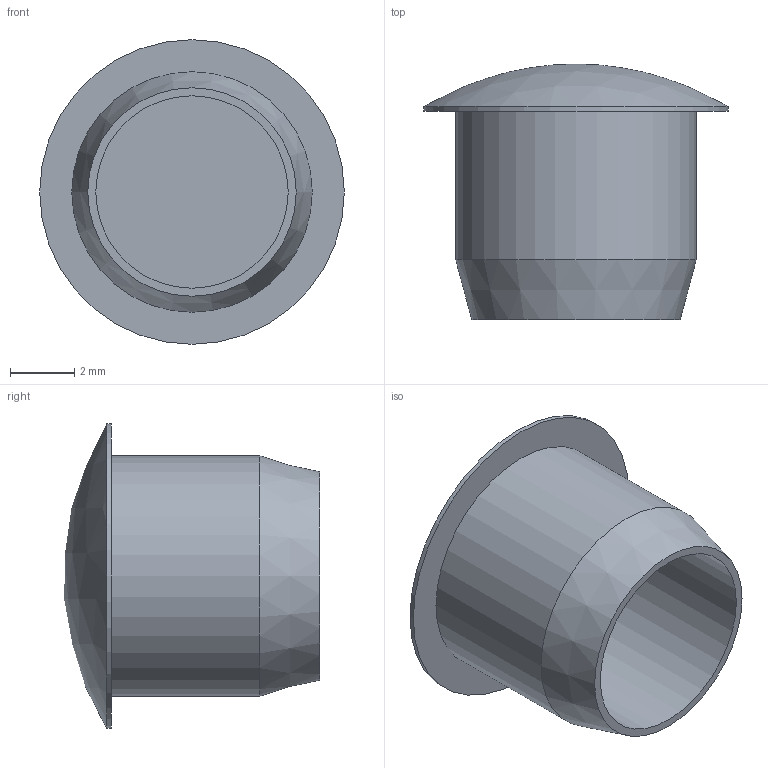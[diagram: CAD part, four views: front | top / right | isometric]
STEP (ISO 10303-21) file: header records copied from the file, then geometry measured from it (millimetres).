
FILE_DESCRIPTION (( 'STEP AP214' ), '1' );
FILE_NAME ('SL01010.step', '2024-12-03T16:30:36', ( '' ), ( '' ), 'SwSTEP 2.0', 'SolidWorks 2023', '' );
FILE_SCHEMA (( 'AUTOMOTIVE_DESIGN' ));
Length unit declared in the file: millimetre
Products named in the file (1): SL01010
Bounding box: 9.5 x 7.97 x 9.5 mm (x, y, z)
Volume: 152.5 mm3; surface area: 415 mm2
Topology: 1 solids, 1 shells, 8 faces, 11 edges, 7 vertices
Faces by surface type: cylinder 3, plane 3, sphere 1, cone 1
Full cylindrical faces by diameter (mm): 6 x1, 7.5 x1, 9.5 x1
Entity records: 177 total; most frequent: DIRECTION 32, CARTESIAN_POINT 23, AXIS2_PLACEMENT_3D 16, EDGE_LOOP 14, ORIENTED_EDGE 14, FACE_OUTER_BOUND 11, ADVANCED_FACE 8, EDGE_CURVE 7
